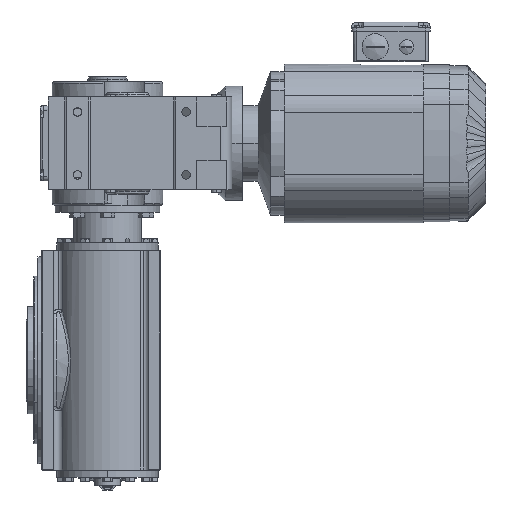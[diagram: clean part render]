
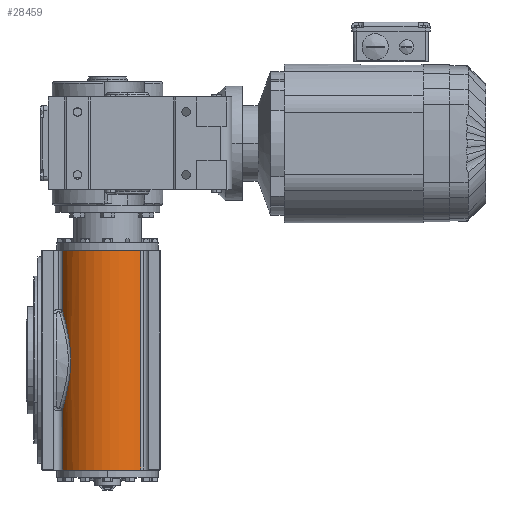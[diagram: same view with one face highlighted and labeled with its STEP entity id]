
A CAD part, left-side view. The second image highlights one B-rep face of the part: STEP entity #28459.
In plain terms, the highlighted cylindrical face has radius 71 mm (diameter 142 mm), a partial arc.
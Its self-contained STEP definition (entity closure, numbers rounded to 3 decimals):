
#2022 = VERTEX_POINT ( 'NONE', #53012 ) ;
#3623 = EDGE_CURVE ( 'NONE', #2022, #42557, #30667, .T. ) ;
#5132 = CARTESIAN_POINT ( 'NONE',  ( -142.345, 126.918, 23.884 ) ) ;
#5684 = EDGE_CURVE ( 'NONE', #87302, #40177, #84417, .T. ) ;
#6569 = CARTESIAN_POINT ( 'NONE',  ( -142.631, 126.653, -21.138 ) ) ;
#8050 = CARTESIAN_POINT ( 'NONE',  ( -95., 74., -154. ) ) ;
#8850 = CIRCLE ( 'NONE', #10407, 71. ) ;
#10054 = CARTESIAN_POINT ( 'NONE',  ( -130.725, 135.429, 63.555 ) ) ;
#10407 = AXIS2_PLACEMENT_3D ( 'NONE', #38413, #30646, #24740 ) ;
#12979 = CARTESIAN_POINT ( 'NONE',  ( -137.325, 131.008, 45.529 ) ) ;
#14447 = CARTESIAN_POINT ( 'NONE',  ( -143.967, 125.413, 5.846 ) ) ;
#18465 = ORIENTED_EDGE ( 'NONE', *, *, #34824, .T. ) ;
#20327 = CARTESIAN_POINT ( 'NONE',  ( -144.04, 125.343, -6.17 ) ) ;
#21513 = B_SPLINE_CURVE_WITH_KNOTS ( 'NONE', 3,
 ( #49524, #10054, #59299, #29604, #35457, #94200, #12979, #71997, #66665, #87484, #5132, #72467, #34994, #88427, #28173, #14447, #21775, #20327, #87959, #65187, #6569, #64705, #58355, #43676, #43185, #79300, #73922, #72940, #44166, #22299 ),
 .UNSPECIFIED., .F., .F.,
 ( 4, 2, 2, 2, 2, 2, 2, 2, 2, 2, 2, 2, 2, 2, 4 ),
 ( 0., 0.018, 0.023, 0.027, 0.036, 0.055, 0.059, 0.064, 0.073, 0.091, 0.095, 0.1, 0.109, 0.127, 0.145 ),
 .UNSPECIFIED. ) ;
#21737 = ORIENTED_EDGE ( 'NONE', *, *, #73289, .T. ) ;
#21775 = CARTESIAN_POINT ( 'NONE',  ( -144.049, 125.334, 2.839 ) ) ;
#22299 = CARTESIAN_POINT ( 'NONE',  ( -128.109, 136.808, -68.859 ) ) ;
#24261 = CARTESIAN_POINT ( 'NONE',  ( -128.109, 136.808, 154. ) ) ;
#24740 = DIRECTION ( 'NONE',  ( 1., 0., 0. ) ) ;
#28173 = CARTESIAN_POINT ( 'NONE',  ( -143.713, 125.653, 10.36 ) ) ;
#28459 = ADVANCED_FACE ( 'NONE', ( #89423 ), #67149, .T. ) ;
#29604 = CARTESIAN_POINT ( 'NONE',  ( -135.5, 132.319, 51.157 ) ) ;
#30586 = DIRECTION ( 'NONE',  ( 0., 0., 1. ) ) ;
#30646 = DIRECTION ( 'NONE',  ( 0., 0., 1. ) ) ;
#30667 = LINE ( 'NONE', #46182, #81127 ) ;
#30922 = ORIENTED_EDGE ( 'NONE', *, *, #62708, .F. ) ;
#31214 = CARTESIAN_POINT ( 'NONE',  ( -148.721, 27.577, -154. ) ) ;
#34108 = DIRECTION ( 'NONE',  ( 1., 0., 0. ) ) ;
#34824 = EDGE_CURVE ( 'NONE', #95452, #89184, #90027, .T. ) ;
#34994 = CARTESIAN_POINT ( 'NONE',  ( -143.351, 125.993, 14.878 ) ) ;
#35457 = CARTESIAN_POINT ( 'NONE',  ( -135.977, 131.984, 49.755 ) ) ;
#36922 = DIRECTION ( 'NONE',  ( 1., 0., 0. ) ) ;
#38413 = CARTESIAN_POINT ( 'NONE',  ( -95., 74., -154. ) ) ;
#38982 = VECTOR ( 'NONE', #46429, 1000. ) ;
#40177 = VERTEX_POINT ( 'NONE', #24261 ) ;
#41251 = CARTESIAN_POINT ( 'NONE',  ( -148.721, 27.577, 154. ) ) ;
#41981 = CIRCLE ( 'NONE', #43583, 71. ) ;
#42557 = VERTEX_POINT ( 'NONE', #87626 ) ;
#43185 = CARTESIAN_POINT ( 'NONE',  ( -140.598, 128.429, -32.922 ) ) ;
#43583 = AXIS2_PLACEMENT_3D ( 'NONE', #71155, #59786, #34108 ) ;
#43676 = CARTESIAN_POINT ( 'NONE',  ( -141.192, 127.924, -30.015 ) ) ;
#44166 = CARTESIAN_POINT ( 'NONE',  ( -130.722, 135.43, -63.561 ) ) ;
#45729 = ORIENTED_EDGE ( 'NONE', *, *, #3623, .T. ) ;
#46182 = CARTESIAN_POINT ( 'NONE',  ( -128.109, 136.808, 500000. ) ) ;
#46359 = ORIENTED_EDGE ( 'NONE', *, *, #5684, .F. ) ;
#46429 = DIRECTION ( 'NONE',  ( 0., 0., 1. ) ) ;
#49524 = CARTESIAN_POINT ( 'NONE',  ( -128.109, 136.808, 68.859 ) ) ;
#53012 = CARTESIAN_POINT ( 'NONE',  ( -128.109, 136.808, -68.859 ) ) ;
#54249 = CARTESIAN_POINT ( 'NONE',  ( -128.109, 136.808, -500000. ) ) ;
#58355 = CARTESIAN_POINT ( 'NONE',  ( -141.962, 127.251, -25.6 ) ) ;
#59299 = CARTESIAN_POINT ( 'NONE',  ( -133.018, 134.012, 58.125 ) ) ;
#59786 = DIRECTION ( 'NONE',  ( 0., 0., 1. ) ) ;
#61318 = DIRECTION ( 'NONE',  ( 0., 0., -1. ) ) ;
#62708 = EDGE_CURVE ( 'NONE', #40177, #89184, #41981, .T. ) ;
#64705 = CARTESIAN_POINT ( 'NONE',  ( -142.199, 127.041, -24.119 ) ) ;
#65187 = CARTESIAN_POINT ( 'NONE',  ( -142.826, 126.476, -19.641 ) ) ;
#66361 = EDGE_CURVE ( 'NONE', #87302, #2022, #21513, .T. ) ;
#66456 = EDGE_LOOP ( 'NONE', ( #46359, #79352, #45729, #21737, #18465, #30922 ) ) ;
#66665 = CARTESIAN_POINT ( 'NONE',  ( -139.32, 129.475, 38.415 ) ) ;
#66840 = DIRECTION ( 'NONE',  ( 0., 0., 1. ) ) ;
#67149 = CYLINDRICAL_SURFACE ( 'NONE', #67375, 71. ) ;
#67375 = AXIS2_PLACEMENT_3D ( 'NONE', #8050, #30586, #36922 ) ;
#71155 = CARTESIAN_POINT ( 'NONE',  ( -95., 74., 154. ) ) ;
#71997 = CARTESIAN_POINT ( 'NONE',  ( -138.57, 130.069, 41.275 ) ) ;
#72467 = CARTESIAN_POINT ( 'NONE',  ( -143.2, 126.132, 16.387 ) ) ;
#72940 = CARTESIAN_POINT ( 'NONE',  ( -132.999, 134.023, -58.167 ) ) ;
#73289 = EDGE_CURVE ( 'NONE', #42557, #95452, #8850, .T. ) ;
#73922 = CARTESIAN_POINT ( 'NONE',  ( -136.93, 131.346, -47.157 ) ) ;
#75187 = CARTESIAN_POINT ( 'NONE',  ( -128.109, 136.808, 68.859 ) ) ;
#79300 = CARTESIAN_POINT ( 'NONE',  ( -138.584, 130.076, -41.542 ) ) ;
#79352 = ORIENTED_EDGE ( 'NONE', *, *, #66361, .T. ) ;
#81127 = VECTOR ( 'NONE', #61318, 1000. ) ;
#84417 = LINE ( 'NONE', #54249, #38982 ) ;
#87302 = VERTEX_POINT ( 'NONE', #75187 ) ;
#87484 = CARTESIAN_POINT ( 'NONE',  ( -141.327, 127.831, 29.758 ) ) ;
#87626 = CARTESIAN_POINT ( 'NONE',  ( -128.109, 136.808, -154. ) ) ;
#87959 = CARTESIAN_POINT ( 'NONE',  ( -143.692, 125.681, -12.164 ) ) ;
#88427 = CARTESIAN_POINT ( 'NONE',  ( -143.607, 125.753, 11.865 ) ) ;
#89184 = VERTEX_POINT ( 'NONE', #41251 ) ;
#89423 = FACE_OUTER_BOUND ( 'NONE', #66456, .T. ) ;
#90027 = LINE ( 'NONE', #31214, #90989 ) ;
#90521 = CARTESIAN_POINT ( 'NONE',  ( -148.721, 27.577, -154. ) ) ;
#90989 = VECTOR ( 'NONE', #66840, 1000. ) ;
#94200 = CARTESIAN_POINT ( 'NONE',  ( -136.889, 131.329, 46.942 ) ) ;
#95452 = VERTEX_POINT ( 'NONE', #90521 ) ;
